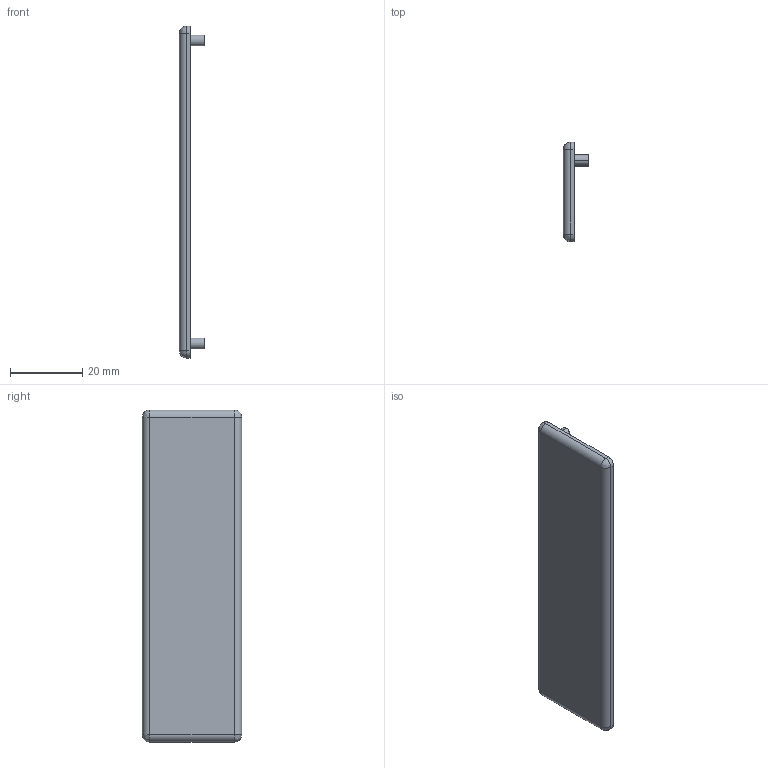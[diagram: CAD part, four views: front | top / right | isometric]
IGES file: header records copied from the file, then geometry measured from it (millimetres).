
Start section: ------------------------------------------------------------------------
Global section: file name: D:\ICADMX\tmp\trans3d_spg\CVICAD02.9116.F10_EndCover_7808.igs; native system: spGate; preprocessor: ver12.6.6; author: Unknown; organization: Unknown; date: 200901.142030; units: millimetre
Bounding box: 7 x 27.5 x 92 mm (x, y, z)
Volume: 7438.2 mm3; surface area: 5631.4 mm2
Topology: 1 solids, 1 shells, 24 faces, 52 edges, 28 vertices
Faces by surface type: bspline 24
